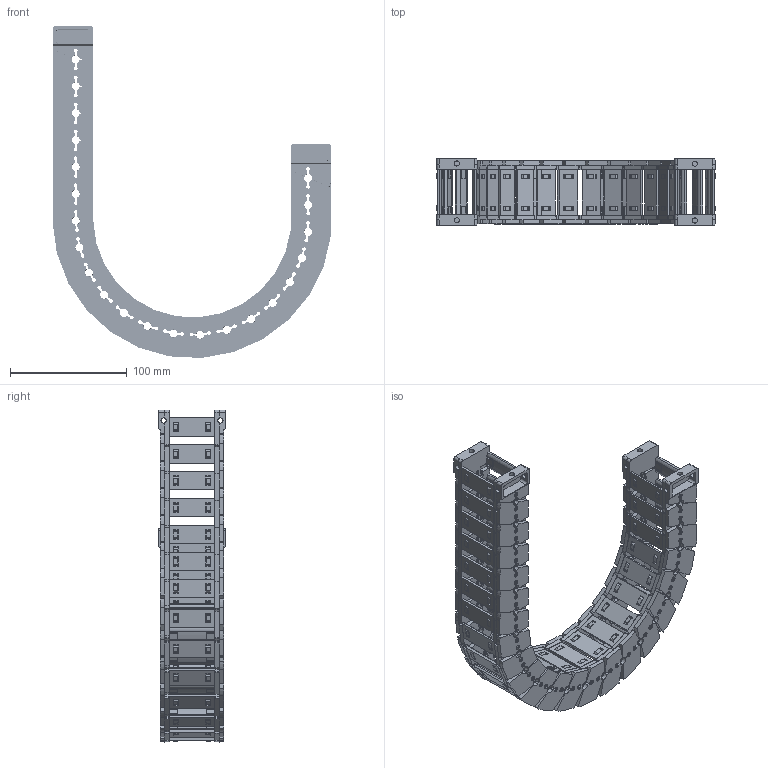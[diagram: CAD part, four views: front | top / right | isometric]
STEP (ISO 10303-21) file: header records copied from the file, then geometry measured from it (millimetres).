
FILE_DESCRIPTION((''),'2;1');
FILE_NAME('JY-28X38-R100_ASM','2026-03-25T18:49:49',('admin'),(''),'CREO PARAMETRIC BY PTC INC, 2021023','CREO PARAMETRIC BY PTC INC, 2021023','');
FILE_SCHEMA(('CONFIG_CONTROL_DESIGN'));
Length unit declared in the file: millimetre
Products named in the file (11): 28XL-L; 25-35XL-YP; 28XL-R; ASM0001_ASM; 28-LTT-A-L; 28-LTT-A-R; 28XL-LTT-A_ASM; 28-LTT-B-L; 28-LTT-B-R; 28XL-LTT-B_ASM; JY-28X38-R100_ASM
Assembly tree (35 placements, depth 3):
  JY-28X38-R100_ASM
    ASM0001_ASM  x21
      28XL-L
      25-35XL-YP
      28XL-R
    28XL-LTT-A_ASM
      28-LTT-A-L
      25-35XL-YP  x2
      28-LTT-A-R
    28XL-LTT-B_ASM
      28-LTT-B-L
      25-35XL-YP  x2
      28-LTT-B-R
Bounding box: 238.21 x 57.5 x 283.78 mm (x, y, z)
Volume: 321879 mm3; surface area: 234917.2 mm2
Topology: 92 solids, 92 shells, 7454 faces, 22156 edges, 14794 vertices
Faces by surface type: plane 4887, cone 1339, cylinder 1072, bspline 156
Entity records: 29119 total; most frequent: CARTESIAN_POINT 9493, ORIENTED_EDGE 4352, DIRECTION 3661, EDGE_CURVE 2176, VERTEX_POINT 1454, VECTOR 1365, LINE 1365, AXIS2_PLACEMENT_3D 1148
